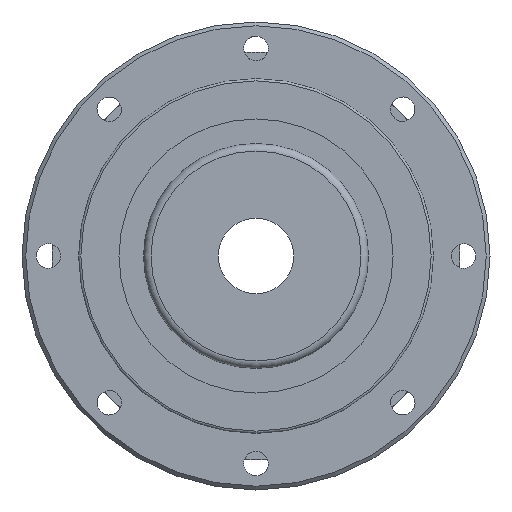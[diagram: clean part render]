
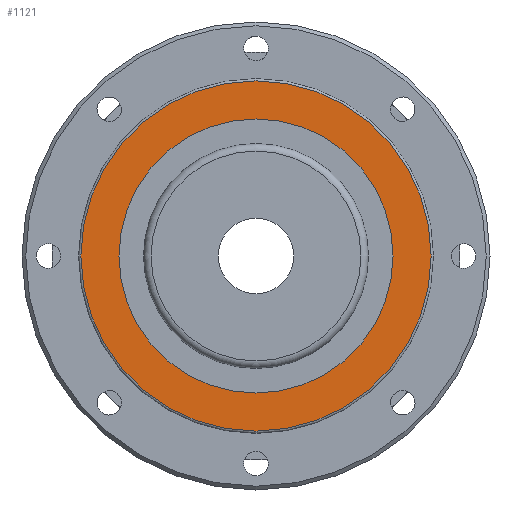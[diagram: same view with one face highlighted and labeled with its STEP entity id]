
A CAD part, left-side view. The second image highlights one B-rep face of the part: STEP entity #1121.
In plain terms, the highlighted planar face has unit normal (-1, 0, 0).
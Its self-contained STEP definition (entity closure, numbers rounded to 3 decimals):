
#154=ORIENTED_EDGE('',*,*,#317,.T.);
#155=ORIENTED_EDGE('',*,*,#316,.F.);
#316=EDGE_CURVE('',#388,#388,#464,.T.);
#317=EDGE_CURVE('',#389,#389,#465,.T.);
#388=VERTEX_POINT('',#1777);
#389=VERTEX_POINT('',#1780);
#464=CIRCLE('',#1231,18.16);
#465=CIRCLE('',#1233,23.2);
#527=EDGE_LOOP('',(#154));
#528=EDGE_LOOP('',(#155));
#627=FACE_BOUND('',#527,.T.);
#628=FACE_BOUND('',#528,.T.);
#707=PLANE('',#1232);
#1121=ADVANCED_FACE('',(#627,#628),#707,.T.);
#1231=AXIS2_PLACEMENT_3D('',#1776,#1441,#1442);
#1232=AXIS2_PLACEMENT_3D('',#1778,#1443,#1444);
#1233=AXIS2_PLACEMENT_3D('',#1779,#1445,#1446);
#1441=DIRECTION('',(-1.,0.,0.));
#1442=DIRECTION('',(0.,0.,1.));
#1443=DIRECTION('',(-1.,0.,0.));
#1444=DIRECTION('',(0.,0.,1.));
#1445=DIRECTION('',(-1.,0.,0.));
#1446=DIRECTION('',(0.,0.,1.));
#1776=CARTESIAN_POINT('',(2.8,0.,0.));
#1777=CARTESIAN_POINT('',(2.8,0.,18.16));
#1778=CARTESIAN_POINT('',(2.8,0.,18.16));
#1779=CARTESIAN_POINT('',(2.8,0.,0.));
#1780=CARTESIAN_POINT('',(2.8,0.,23.2));
